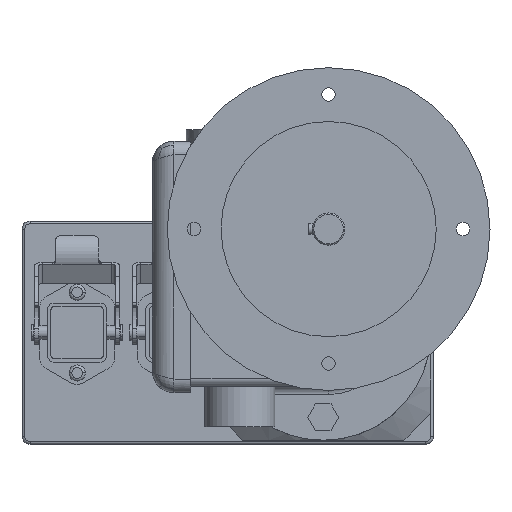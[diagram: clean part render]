
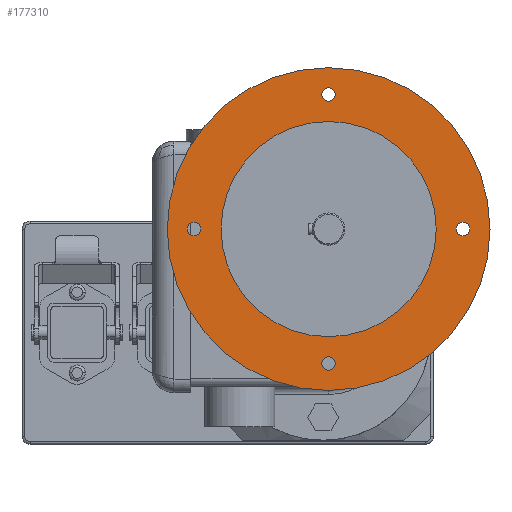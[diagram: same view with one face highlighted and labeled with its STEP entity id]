
A CAD part, left-side view. The second image highlights one B-rep face of the part: STEP entity #177310.
In plain terms, the highlighted planar face has unit normal (-1, 0, 0) as drawn and (0, 0, 1) by its records, which use the part's own axes.
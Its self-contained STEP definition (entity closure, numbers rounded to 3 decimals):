
#176230=CARTESIAN_POINT('',(-34.958,-296.478,220.));
#176240=VERTEX_POINT('',#176230);
#176320=CARTESIAN_POINT('',(-154.958,-296.478,220.));
#176330=VERTEX_POINT('',#176320);
#176360=CARTESIAN_POINT('',(-94.958,-296.478,220.));
#176370=DIRECTION('',(0.,0.,1.));
#176380=DIRECTION('',(1.,0.,0.));
#176390=AXIS2_PLACEMENT_3D('',#176360,#176370,#176380);
#176400=CIRCLE('',#176390,60.);
#176410=EDGE_CURVE('',#176330,#176240,#176400,.T.);
#176460=CARTESIAN_POINT('',(-91.592,-279.62,220.));
#176470=DIRECTION('',(0.,0.,1.));
#176480=DIRECTION('',(1.,0.,0.));
#176490=AXIS2_PLACEMENT_3D('',#176460,#176470,#176480);
#176500=PLANE('',#176490);
#176510=EDGE_CURVE('',#176240,#176330,#176400,.T.);
#176520=ORIENTED_EDGE('',*,*,#176510,.T.);
#176530=ORIENTED_EDGE('',*,*,#176410,.T.);
#176540=EDGE_LOOP('',(#176530,#176520));
#176550=FACE_OUTER_BOUND('',#176540,.T.);
#176560=CARTESIAN_POINT('',(-94.958,-296.478,220.));
#176570=DIRECTION('',(0.,0.,1.));
#176580=DIRECTION('',(1.,0.,0.));
#176590=AXIS2_PLACEMENT_3D('',#176560,#176570,#176580);
#176600=CIRCLE('',#176590,40.);
#176610=CARTESIAN_POINT('',(-54.958,-296.478,220.));
#176620=VERTEX_POINT('',#176610);
#176630=CARTESIAN_POINT('',(-134.958,-296.478,220.));
#176640=VERTEX_POINT('',#176630);
#176650=EDGE_CURVE('',#176620,#176640,#176600,.T.);
#176660=ORIENTED_EDGE('',*,*,#176650,.F.);
#176670=EDGE_CURVE('',#176640,#176620,#176600,.T.);
#176680=ORIENTED_EDGE('',*,*,#176670,.F.);
#176690=EDGE_LOOP('',(#176680,#176660));
#176700=FACE_BOUND('',#176690,.T.);
#176710=CARTESIAN_POINT('',(-44.958,-296.478,220.));
#176720=DIRECTION('',(0.,0.,1.));
#176730=DIRECTION('',(-1.,0.,0.));
#176740=AXIS2_PLACEMENT_3D('',#176710,#176720,#176730);
#176750=CIRCLE('',#176740,2.5);
#176760=CARTESIAN_POINT('',(-47.458,-296.478,220.));
#176770=VERTEX_POINT('',#176760);
#176780=CARTESIAN_POINT('',(-42.458,-296.478,220.));
#176790=VERTEX_POINT('',#176780);
#176800=EDGE_CURVE('',#176770,#176790,#176750,.T.);
#176810=ORIENTED_EDGE('',*,*,#176800,.F.);
#176820=EDGE_CURVE('',#176790,#176770,#176750,.T.);
#176830=ORIENTED_EDGE('',*,*,#176820,.F.);
#176840=EDGE_LOOP('',(#176830,#176810));
#176850=FACE_BOUND('',#176840,.T.);
#176860=CARTESIAN_POINT('',(-94.958,-346.478,220.));
#176870=DIRECTION('',(0.,0.,1.));
#176880=DIRECTION('',(0.,1.,0.));
#176890=AXIS2_PLACEMENT_3D('',#176860,#176870,#176880);
#176900=CIRCLE('',#176890,2.5);
#176910=CARTESIAN_POINT('',(-94.958,-343.978,220.));
#176920=VERTEX_POINT('',#176910);
#176930=CARTESIAN_POINT('',(-94.958,-348.978,220.));
#176940=VERTEX_POINT('',#176930);
#176950=EDGE_CURVE('',#176920,#176940,#176900,.T.);
#176960=ORIENTED_EDGE('',*,*,#176950,.F.);
#176970=EDGE_CURVE('',#176940,#176920,#176900,.T.);
#176980=ORIENTED_EDGE('',*,*,#176970,.F.);
#176990=EDGE_LOOP('',(#176980,#176960));
#177000=FACE_BOUND('',#176990,.T.);
#177010=CARTESIAN_POINT('',(-144.958,-296.478,220.));
#177020=DIRECTION('',(0.,0.,1.));
#177030=DIRECTION('',(1.,0.,0.));
#177040=AXIS2_PLACEMENT_3D('',#177010,#177020,#177030);
#177050=CIRCLE('',#177040,2.5);
#177060=CARTESIAN_POINT('',(-142.458,-296.478,220.));
#177070=VERTEX_POINT('',#177060);
#177080=CARTESIAN_POINT('',(-147.458,-296.478,220.));
#177090=VERTEX_POINT('',#177080);
#177100=EDGE_CURVE('',#177070,#177090,#177050,.T.);
#177110=ORIENTED_EDGE('',*,*,#177100,.F.);
#177120=EDGE_CURVE('',#177090,#177070,#177050,.T.);
#177130=ORIENTED_EDGE('',*,*,#177120,.F.);
#177140=EDGE_LOOP('',(#177130,#177110));
#177150=FACE_BOUND('',#177140,.T.);
#177160=CARTESIAN_POINT('',(-94.958,-246.478,220.));
#177170=DIRECTION('',(0.,0.,1.));
#177180=DIRECTION('',(0.,-1.,0.));
#177190=AXIS2_PLACEMENT_3D('',#177160,#177170,#177180);
#177200=CIRCLE('',#177190,2.5);
#177210=CARTESIAN_POINT('',(-94.958,-248.978,220.));
#177220=VERTEX_POINT('',#177210);
#177230=CARTESIAN_POINT('',(-94.958,-243.978,220.));
#177240=VERTEX_POINT('',#177230);
#177250=EDGE_CURVE('',#177220,#177240,#177200,.T.);
#177260=ORIENTED_EDGE('',*,*,#177250,.F.);
#177270=EDGE_CURVE('',#177240,#177220,#177200,.T.);
#177280=ORIENTED_EDGE('',*,*,#177270,.F.);
#177290=EDGE_LOOP('',(#177280,#177260));
#177300=FACE_BOUND('',#177290,.T.);
#177310=ADVANCED_FACE('',(#176550,#176700,#176850,#177000,#177150,
#177300),#176500,.T.);
